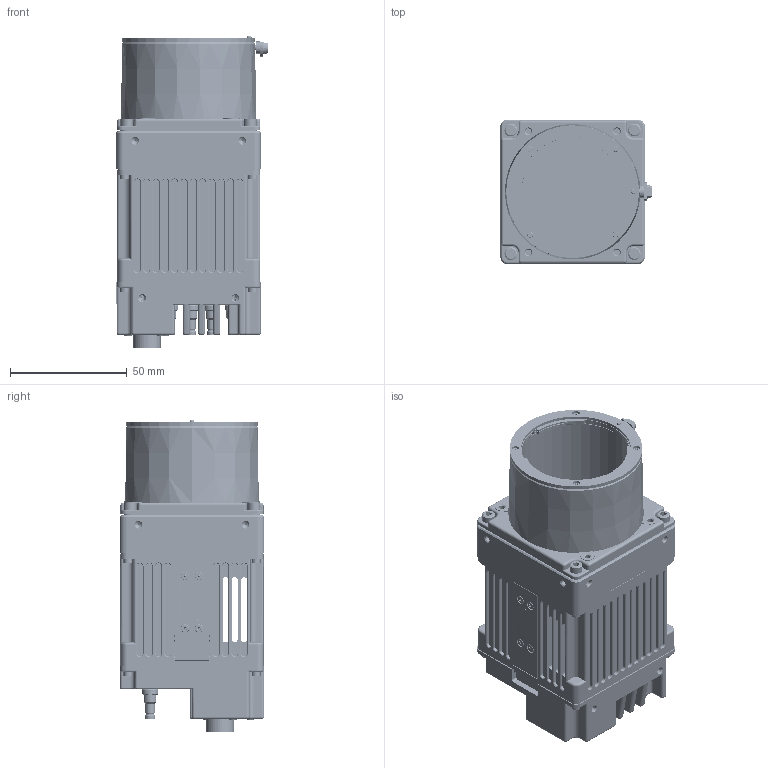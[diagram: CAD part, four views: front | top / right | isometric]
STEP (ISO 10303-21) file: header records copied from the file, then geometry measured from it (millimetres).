
FILE_DESCRIPTION((''),'2;1');
FILE_NAME('SP-12000-CXP4-XT_OLD_2015_11_19','2015-11-19T',('aso'),(''),'PRO/ENGINEER BY PARAMETRIC TECHNOLOGY CORPORATION, 2014200','PRO/ENGINEER BY PARAMETRIC TECHNOLOGY CORPORATION, 2014200','');
FILE_SCHEMA(('CONFIG_CONTROL_DESIGN'));
Products named in the file (1): SP-12000-CXP4-XT_OLD_2015_11_19
Bounding box: 64.9 x 62 x 133.6 mm (x, y, z)
Volume: 112395.7 mm3; surface area: 91395.2 mm2
Topology: 4 solids, 58 shells, 5613 faces, 14947 edges, 9565 vertices
Faces by surface type: plane 3334, cylinder 1408, cone 615, torus 131, sphere 111, bspline 14
Entity records: 174910 total; most frequent: CARTESIAN_POINT 34599, ORIENTED_EDGE 29414, DIRECTION 28902, EDGE_CURVE 14707, VECTOR 9992, LINE 9992, VERTEX_POINT 9560, AXIS2_PLACEMENT_3D 9455
